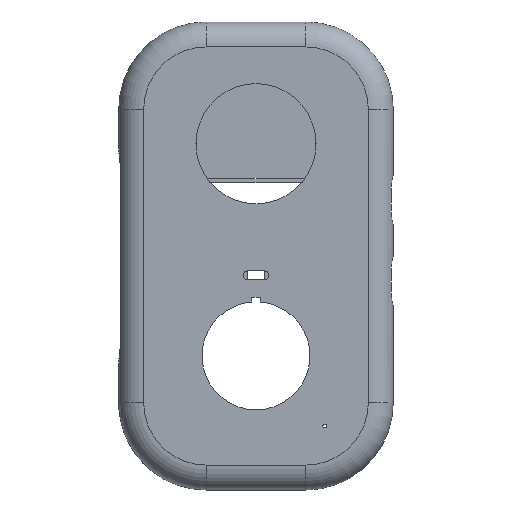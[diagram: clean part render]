
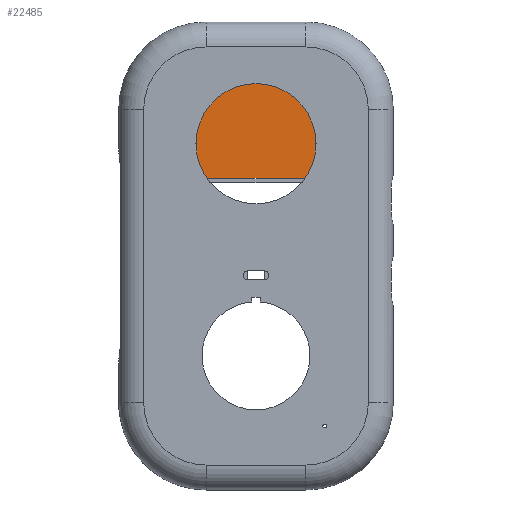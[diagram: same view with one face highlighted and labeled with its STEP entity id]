
A CAD part, front view. The second image highlights one B-rep face of the part: STEP entity #22485.
In plain terms, the highlighted planar face has unit normal (0, -1, 0).
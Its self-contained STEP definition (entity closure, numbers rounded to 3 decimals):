
#5423 = PLANE('',#5424);
#5424 = AXIS2_PLACEMENT_3D('',#5425,#5426,#5427);
#5425 = CARTESIAN_POINT('',(-30.5,-11.7,45.));
#5426 = DIRECTION('',(1.,0.,0.));
#5427 = DIRECTION('',(0.,0.,1.));
#6970 = PLANE('',#6971);
#6971 = AXIS2_PLACEMENT_3D('',#6972,#6973,#6974);
#6972 = CARTESIAN_POINT('',(30.5,-11.7,30.5));
#6973 = DIRECTION('',(1.,0.,0.));
#6974 = DIRECTION('',(0.,0.,1.));
#16140 = VERTEX_POINT('',#16141);
#16141 = CARTESIAN_POINT('',(-30.5,-4.7,57.));
#16178 = PLANE('',#16179);
#16179 = AXIS2_PLACEMENT_3D('',#16180,#16181,#16182);
#16180 = CARTESIAN_POINT('',(-30.5,-4.7,25.));
#16181 = DIRECTION('',(1.,0.,0.));
#16182 = DIRECTION('',(0.,0.,1.));
#16295 = VERTEX_POINT('',#16296);
#16296 = CARTESIAN_POINT('',(-30.5,-4.7,45.));
#16333 = PLANE('',#16334);
#16334 = AXIS2_PLACEMENT_3D('',#16335,#16336,#16337);
#16335 = CARTESIAN_POINT('',(-30.5,-4.7,25.));
#16336 = DIRECTION('',(1.,0.,0.));
#16337 = DIRECTION('',(0.,0.,1.));
#16390 = EDGE_CURVE('',#16295,#16140,#16391,.T.);
#16391 = SURFACE_CURVE('',#16392,(#16396,#16403),.PCURVE_S1.);
#16392 = LINE('',#16393,#16394);
#16393 = CARTESIAN_POINT('',(-30.5,-4.7,25.));
#16394 = VECTOR('',#16395,1.);
#16395 = DIRECTION('',(0.,0.,1.));
#16396 = PCURVE('',#5423,#16397);
#16397 = DEFINITIONAL_REPRESENTATION('',(#16398),#16402);
#16398 = LINE('',#16399,#16400);
#16399 = CARTESIAN_POINT('',(-20.,-7.));
#16400 = VECTOR('',#16401,1.);
#16401 = DIRECTION('',(1.,0.));
#16402 = ( GEOMETRIC_REPRESENTATION_CONTEXT(2) 
PARAMETRIC_REPRESENTATION_CONTEXT() REPRESENTATION_CONTEXT('2D SPACE',''
  ) );
#16403 = PCURVE('',#16404,#16409);
#16404 = PLANE('',#16405);
#16405 = AXIS2_PLACEMENT_3D('',#16406,#16407,#16408);
#16406 = CARTESIAN_POINT('',(-30.5,-4.7,25.));
#16407 = DIRECTION('',(0.,1.,0.));
#16408 = DIRECTION('',(0.,0.,1.));
#16409 = DEFINITIONAL_REPRESENTATION('',(#16410),#16414);
#16410 = LINE('',#16411,#16412);
#16411 = CARTESIAN_POINT('',(0.,0.));
#16412 = VECTOR('',#16413,1.);
#16413 = DIRECTION('',(1.,0.));
#16414 = ( GEOMETRIC_REPRESENTATION_CONTEXT(2) 
PARAMETRIC_REPRESENTATION_CONTEXT() REPRESENTATION_CONTEXT('2D SPACE',''
  ) );
#19735 = VERTEX_POINT('',#19736);
#19736 = CARTESIAN_POINT('',(30.5,-4.7,57.));
#19752 = PLANE('',#19753);
#19753 = AXIS2_PLACEMENT_3D('',#19754,#19755,#19756);
#19754 = CARTESIAN_POINT('',(30.5,-4.7,25.));
#19755 = DIRECTION('',(1.,0.,0.));
#19756 = DIRECTION('',(0.,0.,1.));
#19864 = EDGE_CURVE('',#19865,#19735,#19867,.T.);
#19865 = VERTEX_POINT('',#19866);
#19866 = CARTESIAN_POINT('',(30.5,-4.7,30.5));
#19867 = SURFACE_CURVE('',#19868,(#19872,#19879),.PCURVE_S1.);
#19868 = LINE('',#19869,#19870);
#19869 = CARTESIAN_POINT('',(30.5,-4.7,25.));
#19870 = VECTOR('',#19871,1.);
#19871 = DIRECTION('',(0.,0.,1.));
#19872 = PCURVE('',#6970,#19873);
#19873 = DEFINITIONAL_REPRESENTATION('',(#19874),#19878);
#19874 = LINE('',#19875,#19876);
#19875 = CARTESIAN_POINT('',(-5.5,-7.));
#19876 = VECTOR('',#19877,1.);
#19877 = DIRECTION('',(1.,0.));
#19878 = ( GEOMETRIC_REPRESENTATION_CONTEXT(2) 
PARAMETRIC_REPRESENTATION_CONTEXT() REPRESENTATION_CONTEXT('2D SPACE',''
  ) );
#19879 = PCURVE('',#16404,#19880);
#19880 = DEFINITIONAL_REPRESENTATION('',(#19881),#19885);
#19881 = LINE('',#19882,#19883);
#19882 = CARTESIAN_POINT('',(0.,61.));
#19883 = VECTOR('',#19884,1.);
#19884 = DIRECTION('',(1.,0.));
#19885 = ( GEOMETRIC_REPRESENTATION_CONTEXT(2) 
PARAMETRIC_REPRESENTATION_CONTEXT() REPRESENTATION_CONTEXT('2D SPACE',''
  ) );
#19929 = PLANE('',#19930);
#19930 = AXIS2_PLACEMENT_3D('',#19931,#19932,#19933);
#19931 = CARTESIAN_POINT('',(30.5,-4.7,25.));
#19932 = DIRECTION('',(1.,0.,0.));
#19933 = DIRECTION('',(0.,0.,1.));
#22337 = EDGE_CURVE('',#16140,#22338,#22340,.T.);
#22338 = VERTEX_POINT('',#22339);
#22339 = CARTESIAN_POINT('',(-30.5,-4.7,61.));
#22340 = SURFACE_CURVE('',#22341,(#22345,#22352),.PCURVE_S1.);
#22341 = LINE('',#22342,#22343);
#22342 = CARTESIAN_POINT('',(-30.5,-4.7,25.));
#22343 = VECTOR('',#22344,1.);
#22344 = DIRECTION('',(0.,0.,1.));
#22345 = PCURVE('',#16178,#22346);
#22346 = DEFINITIONAL_REPRESENTATION('',(#22347),#22351);
#22347 = LINE('',#22348,#22349);
#22348 = CARTESIAN_POINT('',(0.,0.));
#22349 = VECTOR('',#22350,1.);
#22350 = DIRECTION('',(1.,0.));
#22351 = ( GEOMETRIC_REPRESENTATION_CONTEXT(2) 
PARAMETRIC_REPRESENTATION_CONTEXT() REPRESENTATION_CONTEXT('2D SPACE',''
  ) );
#22352 = PCURVE('',#16404,#22353);
#22353 = DEFINITIONAL_REPRESENTATION('',(#22354),#22358);
#22354 = LINE('',#22355,#22356);
#22355 = CARTESIAN_POINT('',(0.,0.));
#22356 = VECTOR('',#22357,1.);
#22357 = DIRECTION('',(1.,0.));
#22358 = ( GEOMETRIC_REPRESENTATION_CONTEXT(2) 
PARAMETRIC_REPRESENTATION_CONTEXT() REPRESENTATION_CONTEXT('2D SPACE',''
  ) );
#22398 = PLANE('',#22399);
#22399 = AXIS2_PLACEMENT_3D('',#22400,#22401,#22402);
#22400 = CARTESIAN_POINT('',(-30.5,-4.7,61.));
#22401 = DIRECTION('',(0.,0.,1.));
#22402 = DIRECTION('',(1.,0.,0.));
#22413 = EDGE_CURVE('',#22414,#16295,#22416,.T.);
#22414 = VERTEX_POINT('',#22415);
#22415 = CARTESIAN_POINT('',(-30.5,-4.7,25.));
#22416 = SURFACE_CURVE('',#22417,(#22421,#22428),.PCURVE_S1.);
#22417 = LINE('',#22418,#22419);
#22418 = CARTESIAN_POINT('',(-30.5,-4.7,25.));
#22419 = VECTOR('',#22420,1.);
#22420 = DIRECTION('',(0.,0.,1.));
#22421 = PCURVE('',#16333,#22422);
#22422 = DEFINITIONAL_REPRESENTATION('',(#22423),#22427);
#22423 = LINE('',#22424,#22425);
#22424 = CARTESIAN_POINT('',(0.,0.));
#22425 = VECTOR('',#22426,1.);
#22426 = DIRECTION('',(1.,0.));
#22427 = ( GEOMETRIC_REPRESENTATION_CONTEXT(2) 
PARAMETRIC_REPRESENTATION_CONTEXT() REPRESENTATION_CONTEXT('2D SPACE',''
  ) );
#22428 = PCURVE('',#16404,#22429);
#22429 = DEFINITIONAL_REPRESENTATION('',(#22430),#22434);
#22430 = LINE('',#22431,#22432);
#22431 = CARTESIAN_POINT('',(0.,0.));
#22432 = VECTOR('',#22433,1.);
#22433 = DIRECTION('',(1.,0.));
#22434 = ( GEOMETRIC_REPRESENTATION_CONTEXT(2) 
PARAMETRIC_REPRESENTATION_CONTEXT() REPRESENTATION_CONTEXT('2D SPACE',''
  ) );
#22452 = PLANE('',#22453);
#22453 = AXIS2_PLACEMENT_3D('',#22454,#22455,#22456);
#22454 = CARTESIAN_POINT('',(-30.5,-4.7,25.));
#22455 = DIRECTION('',(0.,0.,1.));
#22456 = DIRECTION('',(1.,0.,0.));
#22485 = ADVANCED_FACE('',(#22486),#16404,.F.);
#22486 = FACE_BOUND('',#22487,.F.);
#22487 = EDGE_LOOP('',(#22488,#22511,#22512,#22513,#22514,#22537,#22558,
    #22559));
#22488 = ORIENTED_EDGE('',*,*,#22489,.F.);
#22489 = EDGE_CURVE('',#22414,#22490,#22492,.T.);
#22490 = VERTEX_POINT('',#22491);
#22491 = CARTESIAN_POINT('',(30.5,-4.7,25.));
#22492 = SURFACE_CURVE('',#22493,(#22497,#22504),.PCURVE_S1.);
#22493 = LINE('',#22494,#22495);
#22494 = CARTESIAN_POINT('',(-30.5,-4.7,25.));
#22495 = VECTOR('',#22496,1.);
#22496 = DIRECTION('',(1.,0.,0.));
#22497 = PCURVE('',#16404,#22498);
#22498 = DEFINITIONAL_REPRESENTATION('',(#22499),#22503);
#22499 = LINE('',#22500,#22501);
#22500 = CARTESIAN_POINT('',(0.,0.));
#22501 = VECTOR('',#22502,1.);
#22502 = DIRECTION('',(0.,1.));
#22503 = ( GEOMETRIC_REPRESENTATION_CONTEXT(2) 
PARAMETRIC_REPRESENTATION_CONTEXT() REPRESENTATION_CONTEXT('2D SPACE',''
  ) );
#22504 = PCURVE('',#22452,#22505);
#22505 = DEFINITIONAL_REPRESENTATION('',(#22506),#22510);
#22506 = LINE('',#22507,#22508);
#22507 = CARTESIAN_POINT('',(0.,0.));
#22508 = VECTOR('',#22509,1.);
#22509 = DIRECTION('',(1.,0.));
#22510 = ( GEOMETRIC_REPRESENTATION_CONTEXT(2) 
PARAMETRIC_REPRESENTATION_CONTEXT() REPRESENTATION_CONTEXT('2D SPACE',''
  ) );
#22511 = ORIENTED_EDGE('',*,*,#22413,.T.);
#22512 = ORIENTED_EDGE('',*,*,#16390,.T.);
#22513 = ORIENTED_EDGE('',*,*,#22337,.T.);
#22514 = ORIENTED_EDGE('',*,*,#22515,.T.);
#22515 = EDGE_CURVE('',#22338,#22516,#22518,.T.);
#22516 = VERTEX_POINT('',#22517);
#22517 = CARTESIAN_POINT('',(30.5,-4.7,61.));
#22518 = SURFACE_CURVE('',#22519,(#22523,#22530),.PCURVE_S1.);
#22519 = LINE('',#22520,#22521);
#22520 = CARTESIAN_POINT('',(-30.5,-4.7,61.));
#22521 = VECTOR('',#22522,1.);
#22522 = DIRECTION('',(1.,0.,0.));
#22523 = PCURVE('',#16404,#22524);
#22524 = DEFINITIONAL_REPRESENTATION('',(#22525),#22529);
#22525 = LINE('',#22526,#22527);
#22526 = CARTESIAN_POINT('',(36.,0.));
#22527 = VECTOR('',#22528,1.);
#22528 = DIRECTION('',(0.,1.));
#22529 = ( GEOMETRIC_REPRESENTATION_CONTEXT(2) 
PARAMETRIC_REPRESENTATION_CONTEXT() REPRESENTATION_CONTEXT('2D SPACE',''
  ) );
#22530 = PCURVE('',#22398,#22531);
#22531 = DEFINITIONAL_REPRESENTATION('',(#22532),#22536);
#22532 = LINE('',#22533,#22534);
#22533 = CARTESIAN_POINT('',(0.,0.));
#22534 = VECTOR('',#22535,1.);
#22535 = DIRECTION('',(1.,0.));
#22536 = ( GEOMETRIC_REPRESENTATION_CONTEXT(2) 
PARAMETRIC_REPRESENTATION_CONTEXT() REPRESENTATION_CONTEXT('2D SPACE',''
  ) );
#22537 = ORIENTED_EDGE('',*,*,#22538,.F.);
#22538 = EDGE_CURVE('',#19735,#22516,#22539,.T.);
#22539 = SURFACE_CURVE('',#22540,(#22544,#22551),.PCURVE_S1.);
#22540 = LINE('',#22541,#22542);
#22541 = CARTESIAN_POINT('',(30.5,-4.7,25.));
#22542 = VECTOR('',#22543,1.);
#22543 = DIRECTION('',(0.,0.,1.));
#22544 = PCURVE('',#16404,#22545);
#22545 = DEFINITIONAL_REPRESENTATION('',(#22546),#22550);
#22546 = LINE('',#22547,#22548);
#22547 = CARTESIAN_POINT('',(0.,61.));
#22548 = VECTOR('',#22549,1.);
#22549 = DIRECTION('',(1.,0.));
#22550 = ( GEOMETRIC_REPRESENTATION_CONTEXT(2) 
PARAMETRIC_REPRESENTATION_CONTEXT() REPRESENTATION_CONTEXT('2D SPACE',''
  ) );
#22551 = PCURVE('',#19752,#22552);
#22552 = DEFINITIONAL_REPRESENTATION('',(#22553),#22557);
#22553 = LINE('',#22554,#22555);
#22554 = CARTESIAN_POINT('',(0.,0.));
#22555 = VECTOR('',#22556,1.);
#22556 = DIRECTION('',(1.,0.));
#22557 = ( GEOMETRIC_REPRESENTATION_CONTEXT(2) 
PARAMETRIC_REPRESENTATION_CONTEXT() REPRESENTATION_CONTEXT('2D SPACE',''
  ) );
#22558 = ORIENTED_EDGE('',*,*,#19864,.F.);
#22559 = ORIENTED_EDGE('',*,*,#22560,.F.);
#22560 = EDGE_CURVE('',#22490,#19865,#22561,.T.);
#22561 = SURFACE_CURVE('',#22562,(#22566,#22573),.PCURVE_S1.);
#22562 = LINE('',#22563,#22564);
#22563 = CARTESIAN_POINT('',(30.5,-4.7,25.));
#22564 = VECTOR('',#22565,1.);
#22565 = DIRECTION('',(0.,0.,1.));
#22566 = PCURVE('',#16404,#22567);
#22567 = DEFINITIONAL_REPRESENTATION('',(#22568),#22572);
#22568 = LINE('',#22569,#22570);
#22569 = CARTESIAN_POINT('',(0.,61.));
#22570 = VECTOR('',#22571,1.);
#22571 = DIRECTION('',(1.,0.));
#22572 = ( GEOMETRIC_REPRESENTATION_CONTEXT(2) 
PARAMETRIC_REPRESENTATION_CONTEXT() REPRESENTATION_CONTEXT('2D SPACE',''
  ) );
#22573 = PCURVE('',#19929,#22574);
#22574 = DEFINITIONAL_REPRESENTATION('',(#22575),#22579);
#22575 = LINE('',#22576,#22577);
#22576 = CARTESIAN_POINT('',(0.,0.));
#22577 = VECTOR('',#22578,1.);
#22578 = DIRECTION('',(1.,0.));
#22579 = ( GEOMETRIC_REPRESENTATION_CONTEXT(2) 
PARAMETRIC_REPRESENTATION_CONTEXT() REPRESENTATION_CONTEXT('2D SPACE',''
  ) );
